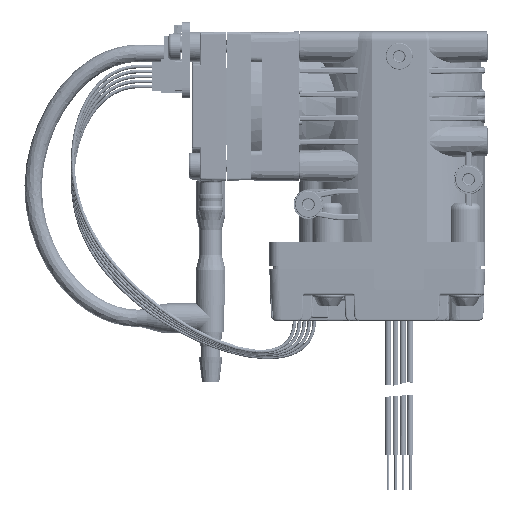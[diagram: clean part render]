
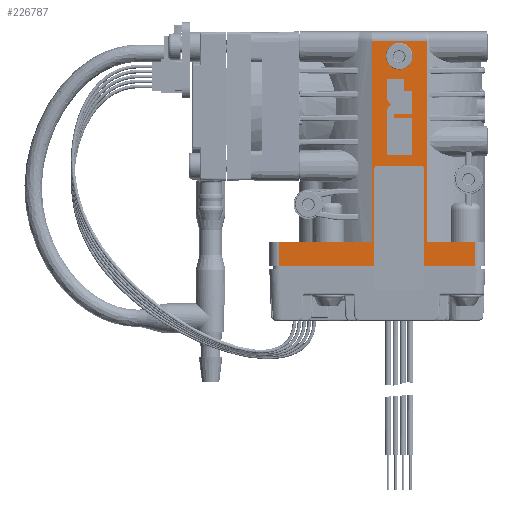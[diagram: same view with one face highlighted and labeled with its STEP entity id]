
A CAD part, left-side view. The second image highlights one B-rep face of the part: STEP entity #226787.
In plain terms, the highlighted planar face has unit normal (-1, 0, 0).
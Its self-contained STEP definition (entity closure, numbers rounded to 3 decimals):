
#25811=DIRECTION('',(0.,1.,0.));
#25812=VECTOR('',#25811,18.676);
#25813=CARTESIAN_POINT('',(-16.5,5.524,-27.43));
#25814=LINE('',#25813,#25812);
#26651=DIRECTION('',(0.,0.,-1.));
#26652=VECTOR('',#26651,4.8);
#26653=CARTESIAN_POINT('',(-16.5,24.2,-27.43));
#26654=LINE('',#26653,#26652);
#26660=DIRECTION('',(0.,0.,1.));
#26661=VECTOR('',#26660,19.73);
#26662=CARTESIAN_POINT('',(-16.5,-5.,-32.23));
#26663=LINE('',#26662,#26661);
#26664=CARTESIAN_POINT('',(-16.5,-4.5,-12.5));
#26665=DIRECTION('',(1.,0.,0.));
#26666=DIRECTION('',(0.,0.,1.));
#26667=AXIS2_PLACEMENT_3D('',#26664,#26665,#26666);
#26669=DIRECTION('',(0.,1.,0.));
#26670=VECTOR('',#26669,9.);
#26671=CARTESIAN_POINT('',(-16.5,-4.5,-12.));
#26672=LINE('',#26671,#26670);
#26673=CARTESIAN_POINT('',(-16.5,4.5,-12.5));
#26674=DIRECTION('',(1.,0.,0.));
#26675=DIRECTION('',(0.,1.,0.));
#26676=AXIS2_PLACEMENT_3D('',#26673,#26674,#26675);
#26678=DIRECTION('',(0.,0.,1.));
#26679=VECTOR('',#26678,19.73);
#26680=CARTESIAN_POINT('',(-16.5,5.,-32.23));
#26681=LINE('',#26680,#26679);
#26682=DIRECTION('',(0.,1.,0.));
#26683=VECTOR('',#26682,19.2);
#26684=CARTESIAN_POINT('',(-16.5,5.,-32.23));
#26685=LINE('',#26684,#26683);
#26686=DIRECTION('',(0.,-1.,0.));
#26687=VECTOR('',#26686,11.047);
#26688=CARTESIAN_POINT('',(-16.5,5.524,13.1));
#26689=LINE('',#26688,#26687);
#26690=DIRECTION('',(0.,0.,1.));
#26691=VECTOR('',#26690,20.);
#26692=CARTESIAN_POINT('',(-16.5,-5.524,-6.9));
#26693=LINE('',#26692,#26691);
#26694=DIRECTION('',(0.,0.,-1.));
#26695=VECTOR('',#26694,4.8);
#26696=CARTESIAN_POINT('',(-16.5,-15.3,-27.43));
#26697=LINE('',#26696,#26695);
#26698=DIRECTION('',(0.,1.,0.));
#26699=VECTOR('',#26698,10.3);
#26700=CARTESIAN_POINT('',(-16.5,-15.3,-32.23));
#26701=LINE('',#26700,#26699);
#26702=CARTESIAN_POINT('',(-16.5,0.,10.1));
#26703=DIRECTION('',(1.,0.,0.));
#26704=DIRECTION('',(0.,0.,-1.));
#26705=AXIS2_PLACEMENT_3D('',#26702,#26703,#26704);
#26707=CARTESIAN_POINT('',(-16.5,0.,10.1));
#26708=DIRECTION('',(1.,0.,0.));
#26709=DIRECTION('',(0.,0.,1.));
#26710=AXIS2_PLACEMENT_3D('',#26707,#26708,#26709);
#26712=DIRECTION('',(0.,-1.,0.));
#26713=VECTOR('',#26712,5.);
#26714=CARTESIAN_POINT('',(-16.5,2.5,-9.884));
#26715=LINE('',#26714,#26713);
#26716=DIRECTION('',(0.,0.,1.));
#26717=VECTOR('',#26716,7.626);
#26718=CARTESIAN_POINT('',(-16.5,-2.5,-9.884));
#26719=LINE('',#26718,#26717);
#26720=DIRECTION('',(0.,1.,0.));
#26721=VECTOR('',#26720,3.465);
#26722=CARTESIAN_POINT('',(-16.5,-2.5,-2.258));
#26723=LINE('',#26722,#26721);
#26724=DIRECTION('',(0.,0.,1.));
#26725=VECTOR('',#26724,0.616);
#26726=CARTESIAN_POINT('',(-16.5,0.965,-2.258));
#26727=LINE('',#26726,#26725);
#26728=DIRECTION('',(0.,-1.,0.));
#26729=VECTOR('',#26728,3.465);
#26730=CARTESIAN_POINT('',(-16.5,0.965,-1.642));
#26731=LINE('',#26730,#26729);
#26732=DIRECTION('',(0.,0.,1.));
#26733=VECTOR('',#26732,4.806);
#26734=CARTESIAN_POINT('',(-16.5,-2.5,-1.642));
#26735=LINE('',#26734,#26733);
#26736=DIRECTION('',(0.,1.,0.));
#26737=VECTOR('',#26736,1.54);
#26738=CARTESIAN_POINT('',(-16.5,-2.5,3.164));
#26739=LINE('',#26738,#26737);
#26740=DIRECTION('',(0.,0.,1.));
#26741=VECTOR('',#26740,2.336);
#26742=CARTESIAN_POINT('',(-16.5,-0.96,3.164));
#26743=LINE('',#26742,#26741);
#26744=DIRECTION('',(0.,1.,0.));
#26745=VECTOR('',#26744,3.46);
#26746=CARTESIAN_POINT('',(-16.5,-0.96,5.5));
#26747=LINE('',#26746,#26745);
#26748=DIRECTION('',(0.,0.,-1.));
#26749=VECTOR('',#26748,3.654);
#26750=CARTESIAN_POINT('',(-16.5,2.5,5.5));
#26751=LINE('',#26750,#26749);
#26752=CARTESIAN_POINT('',(-16.5,0.727,1.846));
#26753=DIRECTION('',(-1.,0.,0.));
#26754=DIRECTION('',(0.,1.,0.));
#26755=AXIS2_PLACEMENT_3D('',#26752,#26753,#26754);
#26757=CARTESIAN_POINT('',(-16.5,0.967,-1.123));
#26758=DIRECTION('',(-1.,0.,0.));
#26759=DIRECTION('',(0.,0.394,0.919));
#26760=AXIS2_PLACEMENT_3D('',#26757,#26758,#26759);
#26762=DIRECTION('',(0.,0.,-1.));
#26763=VECTOR('',#26762,8.761);
#26764=CARTESIAN_POINT('',(-16.5,2.5,-1.123));
#26765=LINE('',#26764,#26763);
#28243=DIRECTION('',(0.,0.,1.));
#28244=VECTOR('',#28243,20.53);
#28245=CARTESIAN_POINT('',(-16.5,-5.524,-27.43));
#28246=LINE('',#28245,#28244);
#28516=DIRECTION('',(0.,1.,0.));
#28517=VECTOR('',#28516,9.776);
#28518=CARTESIAN_POINT('',(-16.5,-15.3,-27.43));
#28519=LINE('',#28518,#28517);
#28745=CARTESIAN_POINT('',(-16.5,-5.524,13.1));
#33600=DIRECTION('',(0.,0.,-1.));
#33601=VECTOR('',#33600,40.53);
#33602=CARTESIAN_POINT('',(-16.5,5.524,13.1));
#33603=LINE('',#33602,#33601);
#194451=CARTESIAN_POINT('',(-16.5,-15.3,-27.43));
#194452=VERTEX_POINT('',#194451);
#194453=CARTESIAN_POINT('',(-16.5,24.2,-27.43));
#194454=VERTEX_POINT('',#194453);
#194463=CARTESIAN_POINT('',(-16.5,-15.3,-32.23));
#194464=VERTEX_POINT('',#194463);
#194465=CARTESIAN_POINT('',(-16.5,24.2,-32.23));
#194467=VERTEX_POINT('',#194465);
#194480=CARTESIAN_POINT('',(-16.5,5.524,-27.43));
#194482=VERTEX_POINT('',#194480);
#194483=CARTESIAN_POINT('',(-16.5,-5.524,-27.43));
#194485=VERTEX_POINT('',#194483);
#194709=CARTESIAN_POINT('',(-16.5,-5.524,-6.9));
#194710=VERTEX_POINT('',#194709);
#194963=CARTESIAN_POINT('',(-16.5,2.5,-9.884));
#194964=CARTESIAN_POINT('',(-16.5,-2.5,-9.884));
#194965=VERTEX_POINT('',#194963);
#194966=VERTEX_POINT('',#194964);
#194967=CARTESIAN_POINT('',(-16.5,-2.5,-2.258));
#194968=VERTEX_POINT('',#194967);
#194969=CARTESIAN_POINT('',(-16.5,0.965,-2.258));
#194970=VERTEX_POINT('',#194969);
#194971=CARTESIAN_POINT('',(-16.5,0.965,-1.642));
#194972=VERTEX_POINT('',#194971);
#194973=CARTESIAN_POINT('',(-16.5,-2.5,-1.642));
#194974=VERTEX_POINT('',#194973);
#194975=CARTESIAN_POINT('',(-16.5,-2.5,3.164));
#194976=VERTEX_POINT('',#194975);
#194977=CARTESIAN_POINT('',(-16.5,-0.96,3.164));
#194978=VERTEX_POINT('',#194977);
#194979=CARTESIAN_POINT('',(-16.5,-0.96,5.5));
#194980=VERTEX_POINT('',#194979);
#194981=CARTESIAN_POINT('',(-16.5,2.5,5.5));
#194982=VERTEX_POINT('',#194981);
#194983=CARTESIAN_POINT('',(-16.5,2.5,1.846));
#194984=VERTEX_POINT('',#194983);
#194985=CARTESIAN_POINT('',(-16.5,1.57,0.286));
#194986=VERTEX_POINT('',#194985);
#194987=CARTESIAN_POINT('',(-16.5,2.5,-1.123));
#194988=VERTEX_POINT('',#194987);
#196061=CARTESIAN_POINT('',(-16.5,0.,7.4));
#196062=CARTESIAN_POINT('',(-16.5,0.,12.8));
#196063=VERTEX_POINT('',#196061);
#196064=VERTEX_POINT('',#196062);
#196283=VERTEX_POINT('',#28745);
#196286=CARTESIAN_POINT('',(-16.5,5.524,13.1));
#196287=VERTEX_POINT('',#196286);
#208946=CARTESIAN_POINT('',(-16.5,-5.,-32.23));
#208947=CARTESIAN_POINT('',(-16.5,-5.,-12.5));
#208948=VERTEX_POINT('',#208946);
#208949=VERTEX_POINT('',#208947);
#208950=CARTESIAN_POINT('',(-16.5,-4.5,-12.));
#208951=CARTESIAN_POINT('',(-16.5,4.5,-12.));
#208952=VERTEX_POINT('',#208950);
#208953=VERTEX_POINT('',#208951);
#208954=CARTESIAN_POINT('',(-16.5,5.,-32.23));
#208955=CARTESIAN_POINT('',(-16.5,5.,-12.5));
#208956=VERTEX_POINT('',#208954);
#208957=VERTEX_POINT('',#208955);
#226718=CARTESIAN_POINT('',(-16.5,5.524,0.));
#226719=DIRECTION('',(-1.,0.,0.));
#226720=DIRECTION('',(0.,-1.,0.));
#226721=AXIS2_PLACEMENT_3D('',#226718,#226719,#226720);
#226722=PLANE('',#226721);
#226724=ORIENTED_EDGE('',*,*,#226723,.T.);
#226726=ORIENTED_EDGE('',*,*,#226725,.F.);
#226728=ORIENTED_EDGE('',*,*,#226727,.T.);
#226730=ORIENTED_EDGE('',*,*,#226729,.F.);
#226732=ORIENTED_EDGE('',*,*,#226731,.F.);
#226734=ORIENTED_EDGE('',*,*,#226733,.T.);
#226735=ORIENTED_EDGE('',*,*,#226702,.F.);
#226736=ORIENTED_EDGE('',*,*,#226388,.F.);
#226738=ORIENTED_EDGE('',*,*,#226737,.F.);
#226740=ORIENTED_EDGE('',*,*,#226739,.T.);
#226742=ORIENTED_EDGE('',*,*,#226741,.F.);
#226744=ORIENTED_EDGE('',*,*,#226743,.F.);
#226746=ORIENTED_EDGE('',*,*,#226745,.F.);
#226748=ORIENTED_EDGE('',*,*,#226747,.T.);
#226750=ORIENTED_EDGE('',*,*,#226749,.T.);
#226751=EDGE_LOOP('',(#226724,#226726,#226728,#226730,#226732,#226734,#226735,
#226736,#226738,#226740,#226742,#226744,#226746,#226748,#226750));
#226752=FACE_OUTER_BOUND('',#226751,.F.);
#226754=ORIENTED_EDGE('',*,*,#226753,.F.);
#226756=ORIENTED_EDGE('',*,*,#226755,.F.);
#226757=EDGE_LOOP('',(#226754,#226756));
#226758=FACE_BOUND('',#226757,.F.);
#226760=ORIENTED_EDGE('',*,*,#226759,.T.);
#226762=ORIENTED_EDGE('',*,*,#226761,.T.);
#226764=ORIENTED_EDGE('',*,*,#226763,.T.);
#226766=ORIENTED_EDGE('',*,*,#226765,.T.);
#226768=ORIENTED_EDGE('',*,*,#226767,.T.);
#226770=ORIENTED_EDGE('',*,*,#226769,.T.);
#226772=ORIENTED_EDGE('',*,*,#226771,.T.);
#226774=ORIENTED_EDGE('',*,*,#226773,.T.);
#226776=ORIENTED_EDGE('',*,*,#226775,.T.);
#226778=ORIENTED_EDGE('',*,*,#226777,.T.);
#226780=ORIENTED_EDGE('',*,*,#226779,.T.);
#226782=ORIENTED_EDGE('',*,*,#226781,.T.);
#226784=ORIENTED_EDGE('',*,*,#226783,.T.);
#226785=EDGE_LOOP('',(#226760,#226762,#226764,#226766,#226768,#226770,#226772,
#226774,#226776,#226778,#226780,#226782,#226784));
#226786=FACE_BOUND('',#226785,.F.);
#26668=CIRCLE('',#26667,0.5);
#26677=CIRCLE('',#26676,0.5);
#26706=CIRCLE('',#26705,2.7);
#26711=CIRCLE('',#26710,2.7);
#26756=CIRCLE('',#26755,1.773);
#26761=CIRCLE('',#26760,1.533);
#226388=EDGE_CURVE('',#194482,#194454,#25814,.T.);
#226702=EDGE_CURVE('',#194454,#194467,#26654,.T.);
#226723=EDGE_CURVE('',#208948,#208949,#26663,.T.);
#226725=EDGE_CURVE('',#208952,#208949,#26668,.T.);
#226727=EDGE_CURVE('',#208952,#208953,#26672,.T.);
#226729=EDGE_CURVE('',#208957,#208953,#26677,.T.);
#226731=EDGE_CURVE('',#208956,#208957,#26681,.T.);
#226733=EDGE_CURVE('',#208956,#194467,#26685,.T.);
#226737=EDGE_CURVE('',#196287,#194482,#33603,.T.);
#226739=EDGE_CURVE('',#196287,#196283,#26689,.T.);
#226741=EDGE_CURVE('',#194710,#196283,#26693,.T.);
#226743=EDGE_CURVE('',#194485,#194710,#28246,.T.);
#226745=EDGE_CURVE('',#194452,#194485,#28519,.T.);
#226747=EDGE_CURVE('',#194452,#194464,#26697,.T.);
#226749=EDGE_CURVE('',#194464,#208948,#26701,.T.);
#226753=EDGE_CURVE('',#196063,#196064,#26706,.T.);
#226755=EDGE_CURVE('',#196064,#196063,#26711,.T.);
#226759=EDGE_CURVE('',#194965,#194966,#26715,.T.);
#226761=EDGE_CURVE('',#194966,#194968,#26719,.T.);
#226763=EDGE_CURVE('',#194968,#194970,#26723,.T.);
#226765=EDGE_CURVE('',#194970,#194972,#26727,.T.);
#226767=EDGE_CURVE('',#194972,#194974,#26731,.T.);
#226769=EDGE_CURVE('',#194974,#194976,#26735,.T.);
#226771=EDGE_CURVE('',#194976,#194978,#26739,.T.);
#226773=EDGE_CURVE('',#194978,#194980,#26743,.T.);
#226775=EDGE_CURVE('',#194980,#194982,#26747,.T.);
#226777=EDGE_CURVE('',#194982,#194984,#26751,.T.);
#226779=EDGE_CURVE('',#194984,#194986,#26756,.T.);
#226781=EDGE_CURVE('',#194986,#194988,#26761,.T.);
#226783=EDGE_CURVE('',#194988,#194965,#26765,.T.);
#226787=ADVANCED_FACE('',(#226752,#226758,#226786),#226722,.T.);
